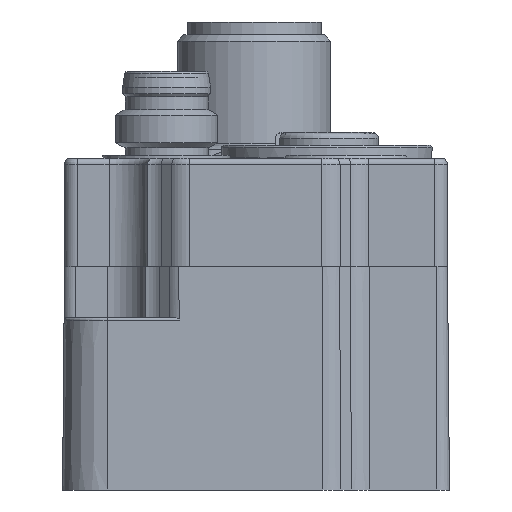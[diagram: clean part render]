
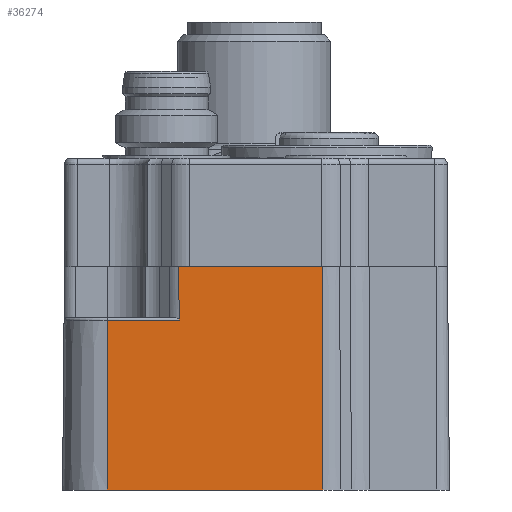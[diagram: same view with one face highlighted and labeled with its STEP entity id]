
A CAD part, front view. The second image highlights one B-rep face of the part: STEP entity #36274.
In plain terms, the highlighted planar face has unit normal (0, -1, 0.009).
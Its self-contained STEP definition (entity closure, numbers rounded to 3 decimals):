
#25094=CARTESIAN_POINT('',(-0.188,0.153,5.811));
#25095=VERTEX_POINT('',#25094);
#25103=CARTESIAN_POINT('',(11.134,0.153,5.811));
#25104=VERTEX_POINT('',#25103);
#25105=CARTESIAN_POINT('',(11.134,0.153,5.811));
#25106=DIRECTION('',(-1.0,0.0,0.0));
#25107=VECTOR('',#25106,11.322);
#25108=LINE('',#25105,#25107);
#25109=EDGE_CURVE('',#25104,#25095,#25108,.T.);
#36094=CARTESIAN_POINT('',(-5.75,0.116,1.613));
#36095=VERTEX_POINT('',#36094);
#36138=CARTESIAN_POINT('',(-0.093,0.116,1.613));
#36139=VERTEX_POINT('',#36138);
#36168=CARTESIAN_POINT('',(-5.75,0.116,1.613));
#36169=DIRECTION('',(1.0,0.0,0.0));
#36170=VECTOR('',#36169,5.657);
#36171=LINE('',#36168,#36170);
#36172=EDGE_CURVE('',#36095,#36139,#36171,.T.);
#36215=CARTESIAN_POINT('',(11.134,0.,-11.689));
#36216=DIRECTION('',(0.,-1.,0.009));
#36217=DIRECTION('',(1.0,0.0,0.0));
#36218=AXIS2_PLACEMENT_3D('',#36215,#36216,#36217);
#36219=PLANE('',#36218);
#36220=CARTESIAN_POINT('',(-0.098,0.118,1.811));
#36221=VERTEX_POINT('',#36220);
#36222=CARTESIAN_POINT('',(-0.093,0.116,1.613));
#36223=CARTESIAN_POINT('',(-0.095,0.117,1.712));
#36224=CARTESIAN_POINT('',(-0.098,0.118,1.811));
#36232=(BOUNDED_CURVE()B_SPLINE_CURVE(2,(#36222,#36223,#36224),.UNSPECIFIED.,.F.,.U.)B_SPLINE_CURVE_WITH_KNOTS((3,3),(0.26,0.28),.UNSPECIFIED.)CURVE()GEOMETRIC_REPRESENTATION_ITEM()RATIONAL_B_SPLINE_CURVE((1.,1.,1.))REPRESENTATION_ITEM(''));
#36233=EDGE_CURVE('',#36139,#36221,#36232,.T.);
#36234=ORIENTED_EDGE('',*,*,#36233,.F.);
#36235=ORIENTED_EDGE('',*,*,#36172,.F.);
#36236=CARTESIAN_POINT('',(-5.75,0.,-11.689));
#36237=VERTEX_POINT('',#36236);
#36238=CARTESIAN_POINT('',(-5.75,0.,-11.689));
#36239=DIRECTION('',(0.0,0.009,1.));
#36240=VECTOR('',#36239,13.302);
#36241=LINE('',#36238,#36240);
#36242=EDGE_CURVE('',#36237,#36095,#36241,.T.);
#36243=ORIENTED_EDGE('',*,*,#36242,.F.);
#36244=CARTESIAN_POINT('',(11.134,0.,-11.689));
#36245=VERTEX_POINT('',#36244);
#36246=CARTESIAN_POINT('',(11.134,0.,-11.689));
#36247=DIRECTION('',(-1.0,0.0,0.0));
#36248=VECTOR('',#36247,16.884);
#36249=LINE('',#36246,#36248);
#36250=EDGE_CURVE('',#36245,#36237,#36249,.T.);
#36251=ORIENTED_EDGE('',*,*,#36250,.F.);
#36252=CARTESIAN_POINT('',(11.134,0.,-11.689));
#36253=DIRECTION('',(0.0,0.009,1.));
#36254=VECTOR('',#36253,17.501);
#36255=LINE('',#36252,#36254);
#36256=EDGE_CURVE('',#36245,#25104,#36255,.T.);
#36257=ORIENTED_EDGE('',*,*,#36256,.T.);
#36258=ORIENTED_EDGE('',*,*,#25109,.T.);
#36259=CARTESIAN_POINT('',(-0.188,0.153,5.811));
#36260=CARTESIAN_POINT('',(-0.143,0.134,3.686));
#36261=CARTESIAN_POINT('',(-0.098,0.118,1.811));
#36269=(BOUNDED_CURVE()B_SPLINE_CURVE(2,(#36259,#36260,#36261),.UNSPECIFIED.,.F.,.U.)B_SPLINE_CURVE_WITH_KNOTS((3,3),(0.0,0.4),.UNSPECIFIED.)CURVE()GEOMETRIC_REPRESENTATION_ITEM()RATIONAL_B_SPLINE_CURVE((1.0,1.,1.0))REPRESENTATION_ITEM(''));
#36270=EDGE_CURVE('',#25095,#36221,#36269,.T.);
#36271=ORIENTED_EDGE('',*,*,#36270,.T.);
#36272=EDGE_LOOP('',(#36234,#36235,#36243,#36251,#36257,#36258,#36271));
#36273=FACE_OUTER_BOUND('',#36272,.T.);
#36274=ADVANCED_FACE('',(#36273),#36219,.T.);
